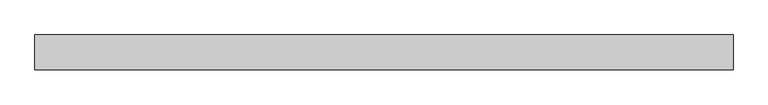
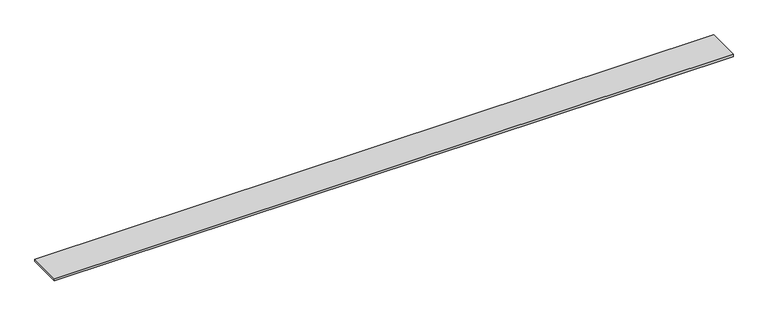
"""IFC4 building model written with IfcOpenShell, lengths in millimetres: proxy geometry, Listwa LD14010 : Listwa LD14010."""

from ifc_helpers import new_model, si_unit, origin, origin_with_axes, place, context, project, spatial, polyline, outline, extrude, source, transform, mapped, element, save


def generic_models_3772b401(model_context):
    return source(origin(), model_context, "Body", "SweptSolid", [
        extrude(outline(polyline([(2800.0, 0.0), (2800.0, -140.0), (0.0, -140.0), (0.0, 0.0), (2800.0, 0.0)])), origin_with_axes(), (0.0, 0.0, 1.0), 10.0),
    ])


if __name__ == "__main__":
    model = new_model("IFC4")
    model_context = context("Model", 3, world=origin())
    ifc_project = project(units=[si_unit("LENGTHUNIT", "METRE", prefix="MILLI")], contexts=[model_context])
    site = spatial("IfcSite", under=ifc_project)
    building = spatial("IfcBuilding", under=site)
    placement = place(None, origin())
    generic_models_shape = generic_models_3772b401(model_context)
    element("IfcBuildingElementProxy", 1, Name="Listwa LD14010 : Listwa LD14010", ObjectType="Listwa LD14010 : Listwa LD14010", at=placement, inside=building, context=model_context, shape_type="MappedRepresentation", body=[
        mapped(generic_models_shape, transform((0.0, 0.0, 0.0), x_axis=(1.0, 0.0, 0.0), y_axis=(0.0, 1.0, 0.0), z_axis=(0.0, 0.0, 1.0))),
    ])
    save(model, "model.ifc")
